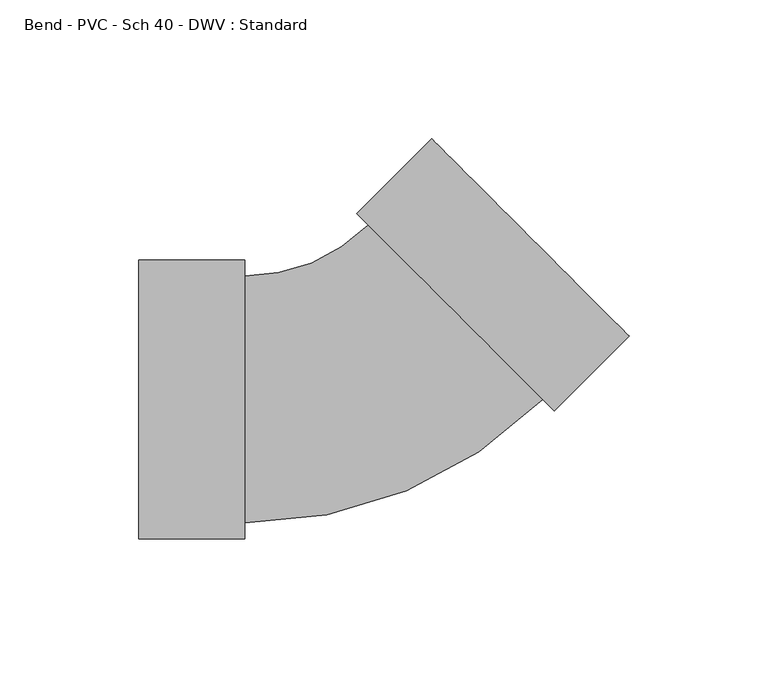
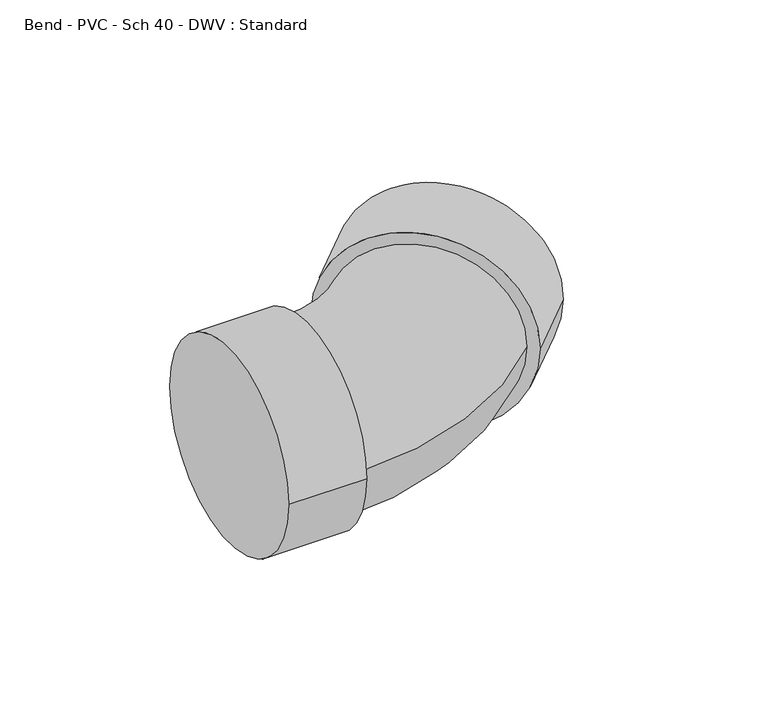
"""IFC4 building model written with IfcOpenShell, lengths in millimetres: pipe fitting geometry, Bend - PVC - Sch 40 - DWV : Standard."""

import ifcopenshell
import ifcopenshell.guid

model = None  # the IFC model being written
_history = None  # IfcOwnerHistory: only IFC2X3 demands one
_inside = {}  # id of a spatial element -> (the spatial element, [elements in it])
_under = {}  # id of a project, library or spatial element -> (it, [spatial elements below it])
_declared = {}  # id of a project -> (the project, [libraries it declares])
_typed = {}  # id of a type object -> (the type object, [elements of that type])
_made_of = {}  # id of a material, layer set ... -> (it, [elements and type objects made of it])


def new_model(schema):
    """Start an empty IFC model of exactly this schema.

    Asked for "IFC4X3", IfcOpenShell would pick the latest addendum, in which some entities
    have other attributes; the version numbers below select the first issue.
    IFC2X3 requires an IfcOwnerHistory on every rooted entity: one is made here for all.
    """
    global model, _history
    if schema == "IFC4X3":
        model = ifcopenshell.file(schema_version=(4, 3, 0, 0))
    else:
        model = ifcopenshell.file(schema=schema)
    _inside.clear()
    _under.clear()
    _declared.clear()
    _typed.clear()
    _made_of.clear()
    _history = None
    if model.schema == "IFC2X3":
        org = make("IfcOrganization", Name="unknown")
        user = make(
            "IfcPersonAndOrganization",
            ThePerson=make("IfcPerson", FamilyName="unknown"),
            TheOrganization=org,
        )
        app = make(
            "IfcApplication",
            ApplicationDeveloper=org,
            Version="unknown",
            ApplicationFullName="unknown",
            ApplicationIdentifier="unknown",
        )
        _history = make(
            "IfcOwnerHistory",
            OwningUser=user,
            OwningApplication=app,
            ChangeAction="ADDED",
            CreationDate=0,
        )
    return model


def make(cls, **values):
    """One entity of the class cls with the attributes given. An attribute that is None is left unset."""
    return model.create_entity(
        cls, **{name: value for name, value in values.items() if value is not None}
    )


def rooted(cls, **values):
    """An entity with a GlobalId (a new one), such as an element, a storey or a relation."""
    return make(cls, GlobalId=ifcopenshell.guid.new(), OwnerHistory=_history, **values)


def si_unit(unit_type, name, prefix=None):
    """IfcSIUnit, for example si_unit("LENGTHUNIT", "METRE", prefix="MILLI")."""
    return make("IfcSIUnit", UnitType=unit_type, Prefix=prefix, Name=name)


def assignment(units):
    """IfcUnitAssignment: the units of a project."""
    return None if units is None else make("IfcUnitAssignment", Units=units)


def point(xyz):
    """IfcCartesianPoint."""
    return None if xyz is None else make("IfcCartesianPoint", Coordinates=xyz)


def direction(xyz):
    """IfcDirection."""
    return None if xyz is None else make("IfcDirection", DirectionRatios=xyz)


def frame(location, z_axis=None, x_axis=None):
    """IfcAxis2Placement3D, a coordinate frame: its origin and axes. An axis left out is left unset."""
    return make(
        "IfcAxis2Placement3D",
        Location=point(location),
        Axis=direction(z_axis),
        RefDirection=direction(x_axis),
    )


def origin():
    """The frame at (0, 0, 0) with its axes left unset."""
    return frame((0.0, 0.0, 0.0))


def place(relative_to, where):
    """IfcLocalPlacement: puts the frame where relative to a parent placement (None: the world)."""
    return make(
        "IfcLocalPlacement", PlacementRelTo=relative_to, RelativePlacement=where
    )


def context(
    kind, dimensions, precision=None, world=None, true_north=None, identifier=None
):
    """IfcGeometricRepresentationContext, for example the 3D "Model" context."""
    return make(
        "IfcGeometricRepresentationContext",
        ContextIdentifier=identifier,
        ContextType=kind,
        CoordinateSpaceDimension=dimensions,
        Precision=precision,
        WorldCoordinateSystem=world,
        TrueNorth=true_north,
    )


def project(units=None, contexts=None):
    """IfcProject with its units and contexts."""
    return rooted(
        "IfcProject",
        Name="project",
        RepresentationContexts=contexts,
        UnitsInContext=assignment(units),
    )


def spatial(cls, under=None, at=None, **own):
    """A site, building, storey or space (cls), placed at a placement, below another one or the project."""
    s = rooted(cls, ObjectPlacement=at, **own)
    if under is not None:
        _under.setdefault(under.id(), (under, []))[1].append(s)
    return s


def circle_curve(where, radius):
    """IfcCircle in the frame where."""
    return make("IfcCircle", Position=where, Radius=radius)


def ellipse_curve(where, semi_axis1, semi_axis2):
    """IfcEllipse in the frame where."""
    return make(
        "IfcEllipse", Position=where, SemiAxis1=semi_axis1, SemiAxis2=semi_axis2
    )


def trimmed(basis, trim1, trim2, sense, master):
    """IfcTrimmedCurve: the piece of a basis curve between two trims."""
    return make(
        "IfcTrimmedCurve",
        BasisCurve=basis,
        Trim1=trim1,
        Trim2=trim2,
        SenseAgreement=sense,
        MasterRepresentation=master,
    )


def shape(context_of_items, identifier, shape_type, items):
    """IfcShapeRepresentation: the items that make up one representation, for example the "Body"."""
    return make(
        "IfcShapeRepresentation",
        ContextOfItems=context_of_items,
        RepresentationIdentifier=identifier,
        RepresentationType=shape_type,
        Items=items,
    )


def source(mapping_origin, context_of_items, identifier, shape_type, items):
    """IfcRepresentationMap: a shape defined once, which mapped items show again and again."""
    return make(
        "IfcRepresentationMap",
        MappingOrigin=mapping_origin,
        MappedRepresentation=shape(context_of_items, identifier, shape_type, items),
    )


def transform(
    local_origin,
    x_axis=None,
    y_axis=None,
    z_axis=None,
    scale=None,
    scale2=None,
    scale3=None,
    uniform=True,
):
    """IfcCartesianTransformationOperator3D, or its non-uniform kind. x_axis, y_axis, z_axis: its Axis1, 2, 3."""
    if uniform:
        return make(
            "IfcCartesianTransformationOperator3D",
            Axis1=direction(x_axis),
            Axis2=direction(y_axis),
            LocalOrigin=point(local_origin),
            Scale=scale,
            Axis3=direction(z_axis),
        )
    return make(
        "IfcCartesianTransformationOperator3DnonUniform",
        Axis1=direction(x_axis),
        Axis2=direction(y_axis),
        LocalOrigin=point(local_origin),
        Scale=scale,
        Axis3=direction(z_axis),
        Scale2=scale2,
        Scale3=scale3,
    )


def mapped(mapping_source, mapping_target):
    """IfcMappedItem: shows the shape of a source again, moved by a transform."""
    return make(
        "IfcMappedItem", MappingSource=mapping_source, MappingTarget=mapping_target
    )


def made_of(thing, what):
    """Note that an element or type object is made of a material, layer set ...; save() writes the relation."""
    if what is not None:
        _made_of.setdefault(what.id(), (what, []))[1].append(thing)
    return thing


def element(
    cls,
    number,
    at=None,
    inside=None,
    cuts=None,
    type_object=None,
    material=None,
    context=None,
    identifier="Body",
    shape_type=None,
    held_by="IfcProductDefinitionShape",
    body=None,
    shapes=None,
    **own,
):
    """One element of the class cls, such as IfcWall. Its Tag is "e" and its number.

    at: its placement. inside: the storey or other place that contains it. cuts: it is an
    opening in that element (IfcRelVoidsElement). A single representation is given by context,
    identifier, shape_type and body (its items); several are given by shapes. held_by: the class
    of the entity that holds the representations. save() writes the other relations.
    """
    e = rooted(cls, Tag="e%d" % number, ObjectPlacement=at, **own)
    if body is not None:
        shapes = [shape(context, identifier, shape_type, body)]
    if shapes is not None:
        e.Representation = make(held_by, Representations=shapes)
    if inside is not None:
        _inside.setdefault(inside.id(), (inside, []))[1].append(e)
    if cuts is not None:
        rooted(
            "IfcRelVoidsElement", RelatingBuildingElement=cuts, RelatedOpeningElement=e
        )
    if type_object is not None:
        _typed.setdefault(type_object.id(), (type_object, []))[1].append(e)
    return made_of(e, material)


def aggregate(whole, parts):
    """IfcRelAggregates: a whole, such as a stair, and the parts it consists of."""
    return rooted("IfcRelAggregates", RelatingObject=whole, RelatedObjects=parts)


def save(model, path):
    """Write the relations noted so far, then the file.

    IfcRelAggregates (storeys below a building ...), IfcRelContainedInSpatialStructure (elements
    in a storey), IfcRelDefinesByType, IfcRelAssociatesMaterial and IfcRelDeclares: one each for
    every whole, place, type object, material and project.
    """
    for whole, parts in _under.values():
        aggregate(whole, parts)
    for where, things in _inside.values():
        rooted(
            "IfcRelContainedInSpatialStructure",
            RelatedElements=things,
            RelatingStructure=where,
        )
    for kind, things in _typed.values():
        rooted("IfcRelDefinesByType", RelatedObjects=things, RelatingType=kind)
    for what, things in _made_of.values():
        rooted("IfcRelAssociatesMaterial", RelatedObjects=things, RelatingMaterial=what)
    for by, libraries in _declared.values():
        rooted("IfcRelDeclares", RelatingContext=by, RelatedDefinitions=libraries)
    model.write(path)


def plane_surface(at):
    """IfcPlane: the flat surface through the origin of the frame at, square to its z axis."""
    return make("IfcPlane", Position=at)


def cylinder_surface(at, radius):
    """IfcCylindricalSurface: all points at the distance radius from the z axis of the frame at."""
    return make("IfcCylindricalSurface", Position=at, Radius=radius)


def revolved_surface(curve, axis_point, axis_direction):
    """IfcSurfaceOfRevolution: the curve turned about the line through axis_point along axis_direction."""
    return make(
        "IfcSurfaceOfRevolution",
        SweptCurve=make("IfcArbitraryOpenProfileDef", ProfileType="CURVE", Curve=curve),
        AxisPosition=make("IfcAxis1Placement", Location=point(axis_point), Axis=direction(axis_direction)),
    )


def advanced_brep(points, edges, surfaces, faces):
    """IfcAdvancedBrep: a solid bounded by faces that lie on surfaces and meet in shared edges.

    An edge is (start, end): straight between two places in points (the first is 0);
    or (start, end, curve); or (start, end, curve, False) where it runs against its curve.
    A face is (place in surfaces, loops), or (place, loops, False) where it looks against
    its surface's normal. A loop lists edges by number (the first is 1), with a minus sign
    where the edge is run from its end to its start. The first loop is the outer one.
    """
    corners = [point(p) for p in points]
    vertices = [make("IfcVertexPoint", VertexGeometry=c) for c in corners]
    made = []
    for start, end, *more in edges:
        made.append(
            make(
                "IfcEdgeCurve",
                EdgeStart=vertices[start],
                EdgeEnd=vertices[end],
                EdgeGeometry=more[0] if more else make("IfcPolyline", Points=[corners[start], corners[end]]),
                SameSense=more[1] if len(more) > 1 else True,
            )
        )
    hull = []
    for where, loops, *sense in faces:
        bounds = []
        for j, loop in enumerate(loops):
            ring = [make("IfcOrientedEdge", EdgeElement=made[abs(k) - 1], Orientation=k > 0) for k in loop]
            bounds.append(
                make(
                    "IfcFaceOuterBound" if j == 0 else "IfcFaceBound",
                    Bound=make("IfcEdgeLoop", EdgeList=ring),
                    Orientation=True,
                )
            )
        hull.append(make("IfcAdvancedFace", Bounds=bounds, FaceSurface=surfaces[where], SameSense=sense[0] if sense else True))
    return make("IfcAdvancedBrep", Outer=make("IfcClosedShell", CfsFaces=hull))


def bend_pvc_sch_40_dwv_standard_32dc575b(model_context):
    return source(origin(), model_context, "Body", "AdvancedBrep", [
        advanced_brep(
        [(-82.55, -50.2666, 0.0), (-82.55, 50.2666, 0.0), (-44.45, -50.2666, 0.0), (-44.45, 50.2666, 0.0), (-44.45, -44.45, 0.0), (-44.45, 44.45, 0.0), (0.0191842, 62.8617899, 0.0), (62.8617899, -0.0191842, 0.0), (66.9734918, -4.1333965, 0.0), (-4.0925177, 66.9760022, 0.0), (93.9224807, 22.7991488, 0.0), (22.8564711, 93.9085475, 0.0)],
        [
            (0, 1, circle_curve(frame((-82.55, 0.0, 0.0), z_axis=(-1.0, 0.0, 0.0), x_axis=(0.0, 1.0, 0.0)), 50.2666)),
            (1, 0, circle_curve(frame((-82.55, 0.0, 0.0), z_axis=(-1.0, 0.0, 0.0), x_axis=(0.0, 1.0, 0.0)), 50.2666)),
            (2, 3, circle_curve(frame((-44.45, 0.0, 0.0), z_axis=(1.0, 0.0, 0.0), x_axis=(0.0, 1.0, 0.0)), 50.2666)),
            (3, 2, circle_curve(frame((-44.45, 0.0, 0.0), z_axis=(1.0, 0.0, 0.0), x_axis=(0.0, 1.0, 0.0)), 50.2666)),
            (4, 5, circle_curve(frame((-44.45, 0.0, 0.0), z_axis=(-1.0, 0.0, 0.0), x_axis=(0.0, 1.0, 0.0)), 44.45)),
            (5, 4, circle_curve(frame((-44.45, 0.0, 0.0), z_axis=(-1.0, 0.0, 0.0), x_axis=(0.0, 1.0, 0.0)), 44.45)),
            (0, 2),
            (3, 1),
            (6, 5, circle_curve(frame((-44.45, 107.3581246, 0.0), z_axis=(0.0, 0.0, -1.0), x_axis=(0.0, -1.0, 0.0)), 62.9081246)),
            (4, 7, circle_curve(frame((-44.45, 107.3581246, 0.0), z_axis=(0.0, 0.0, 1.0), x_axis=(0.0, -1.0, 0.0)), 151.8081246)),
            (7, 6, circle_curve(frame((31.440487, 31.4213029, 0.0), z_axis=(-0.7073225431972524, -0.7068909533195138, 0.0), x_axis=(-0.7068909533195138, 0.7073225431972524, 0.0)), 44.45)),
            (6, 7, circle_curve(frame((31.440487, 31.4213029, 0.0), z_axis=(-0.7073225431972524, -0.7068909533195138, 0.0), x_axis=(-0.7068909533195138, 0.7073225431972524, 0.0)), 44.45)),
            (8, 9, circle_curve(frame((31.440487, 31.4213029, 0.0), z_axis=(-0.7073225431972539, -0.7068909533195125, 0.0), x_axis=(-0.7068909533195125, 0.7073225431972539, 0.0)), 50.2666)),
            (9, 8, circle_curve(frame((31.440487, 31.4213029, 0.0), z_axis=(-0.7073225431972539, -0.7068909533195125, 0.0), x_axis=(-0.7068909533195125, 0.7073225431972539, 0.0)), 50.2666)),
            (10, 11, circle_curve(frame((58.3894759, 58.3538482, 0.0), z_axis=(0.7073225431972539, 0.7068909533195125, 0.0), x_axis=(-0.7068909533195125, 0.7073225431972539, 0.0)), 50.2666)),
            (11, 10, circle_curve(frame((58.3894759, 58.3538482, 0.0), z_axis=(0.7073225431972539, 0.7068909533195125, 0.0), x_axis=(-0.7068909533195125, 0.7073225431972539, 0.0)), 50.2666)),
            (8, 10),
            (11, 9),
        ],
        [
            plane_surface(frame((-82.55, 0.0, 0.0), z_axis=(-1.0, 0.0, 0.0), x_axis=(0.0, 0.0, 1.0))),
            plane_surface(frame((-44.45, 0.0, 0.0), z_axis=(1.0, 0.0, 0.0), x_axis=(0.0, 0.0, 1.0))),
            cylinder_surface(frame((-82.55, 0.0, 0.0), z_axis=(-1.0, 0.0, 0.0), x_axis=(0.0, 1.0, 0.0)), 50.2666),
            revolved_surface(trimmed(ellipse_curve(frame((-44.45, 0.0, 0.0), z_axis=(-1.0, 0.0, 0.0), x_axis=(0.0, 1.0, 0.0)), 44.45, 44.45), [point((-44.45, -44.45, 0.0))], [point((-44.45, 44.45, 0.0))], True, "CARTESIAN"), (-44.45, 107.3581246, 0.0), (0.0, 0.0, 1.0)),
            revolved_surface(trimmed(ellipse_curve(frame((-44.45, 0.0, 0.0), z_axis=(-1.0, 0.0, 0.0), x_axis=(0.0, 1.0, 0.0)), 44.45, 44.45), [point((-44.45, 44.45, 0.0))], [point((-44.45, -44.45, 0.0))], True, "CARTESIAN"), (-44.45, 107.3581246, 0.0), (0.0, 0.0, 1.0)),
            plane_surface(frame((31.440487, 31.4213029, 0.0), z_axis=(-0.7073225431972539, -0.7068909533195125, 0.0), x_axis=(0.0, 0.0, 1.0))),
            plane_surface(frame((58.3894759, 58.3538482, 0.0), z_axis=(0.7073225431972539, 0.7068909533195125, 0.0), x_axis=(0.0, 0.0, 1.0))),
            cylinder_surface(frame((31.440487, 31.4213029, 0.0), z_axis=(-0.7073225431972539, -0.7068909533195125, 0.0), x_axis=(-0.7068909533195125, 0.7073225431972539, 0.0)), 50.2666),
        ],
        [
            (0, [[1, 2]]),
            (1, [[3, 4], [5, 6]]),
            (2, [[-1, 7, -4, 8]]),
            (2, [[-2, -8, -3, -7]]),
            (3, [[9, -5, 10, 11]]),
            (4, [[-9, 12, -10, -6]]),
            (5, [[13, 14], [-11, -12]]),
            (6, [[15, 16]]),
            (7, [[-13, 17, -16, 18]]),
            (7, [[-14, -18, -15, -17]]),
        ],
    ),
    ])


if __name__ == "__main__":
    model = new_model("IFC4")
    model_context = context("Model", 3, world=origin())
    ifc_project = project(units=[si_unit("LENGTHUNIT", "METRE", prefix="MILLI")], contexts=[model_context])
    site = spatial("IfcSite", under=ifc_project)
    building = spatial("IfcBuilding", under=site)
    placement = place(None, origin())
    bend_pvc_sch_40_dwv_standard_shape = bend_pvc_sch_40_dwv_standard_32dc575b(model_context)
    element("IfcPipeFitting", 1, ObjectType="Bend - PVC - Sch 40 - DWV : Standard", at=placement, inside=building, context=model_context, shape_type="MappedRepresentation", body=[
        mapped(bend_pvc_sch_40_dwv_standard_shape, transform((0.0, 0.0, 0.0), x_axis=(1.0, 0.0, 0.0), y_axis=(0.0, 1.0, 0.0), z_axis=(0.0, 0.0, 1.0))),
    ])
    save(model, "model.ifc")
